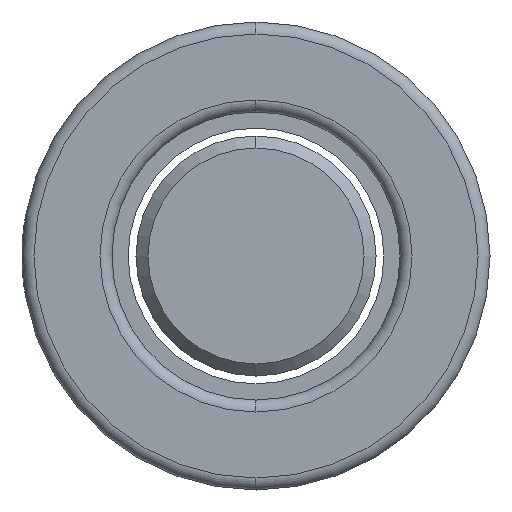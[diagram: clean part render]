
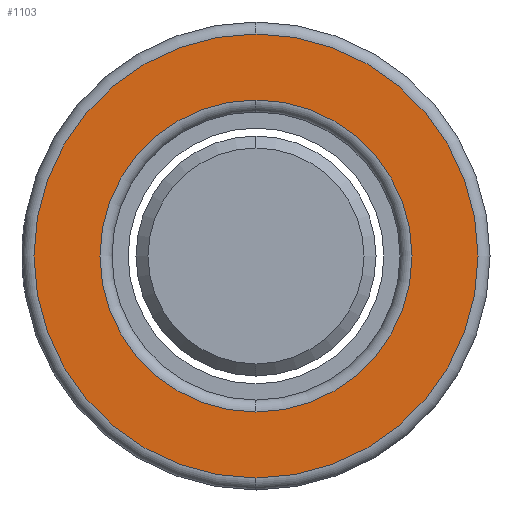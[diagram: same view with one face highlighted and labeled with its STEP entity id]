
A CAD part, left-side view. The second image highlights one B-rep face of the part: STEP entity #1103.
In plain terms, the highlighted planar face has unit normal (-1, 0, 0).
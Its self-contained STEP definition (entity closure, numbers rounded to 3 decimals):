
#7 = CARTESIAN_POINT ( 'NONE',  ( 0., 0., 0. ) ) ;
#63 = DIRECTION ( 'NONE',  ( 0., 0., -1. ) ) ;
#123 = FACE_OUTER_BOUND ( 'NONE', #822, .T. ) ;
#129 = VERTEX_POINT ( 'NONE', #1438 ) ;
#160 = CARTESIAN_POINT ( 'NONE',  ( 0., 0., 0. ) ) ;
#241 = DIRECTION ( 'NONE',  ( 0., 0., -1. ) ) ;
#251 = DIRECTION ( 'NONE',  ( 1., 0., 0. ) ) ;
#267 = PLANE ( 'NONE',  #2228 ) ;
#324 = EDGE_LOOP ( 'NONE', ( #1934, #1649 ) ) ;
#332 = DIRECTION ( 'NONE',  ( 0., 0., -1. ) ) ;
#346 = VERTEX_POINT ( 'NONE', #1180 ) ;
#528 = CARTESIAN_POINT ( 'NONE',  ( 0., 0., 0. ) ) ;
#550 = EDGE_CURVE ( 'NONE', #1295, #129, #840, .T. ) ;
#625 = ORIENTED_EDGE ( 'NONE', *, *, #2223, .T. ) ;
#668 = DIRECTION ( 'NONE',  ( -1., 0., 0. ) ) ;
#694 = DIRECTION ( 'NONE',  ( 0., 0., -1. ) ) ;
#822 = EDGE_LOOP ( 'NONE', ( #625, #886 ) ) ;
#840 = CIRCLE ( 'NONE', #2106, 6.5 ) ;
#868 = AXIS2_PLACEMENT_3D ( 'NONE', #1411, #251, #63 ) ;
#886 = ORIENTED_EDGE ( 'NONE', *, *, #2179, .T. ) ;
#908 = CIRCLE ( 'NONE', #868, 6.5 ) ;
#910 = AXIS2_PLACEMENT_3D ( 'NONE', #160, #1377, #1565 ) ;
#1032 = AXIS2_PLACEMENT_3D ( 'NONE', #528, #668, #694 ) ;
#1036 = CARTESIAN_POINT ( 'NONE',  ( 0., 0., -9.25 ) ) ;
#1047 = FACE_BOUND ( 'NONE', #324, .T. ) ;
#1078 = EDGE_CURVE ( 'NONE', #129, #1295, #908, .T. ) ;
#1103 = ADVANCED_FACE ( 'NONE', ( #123, #1047 ), #267, .F. ) ;
#1151 = CIRCLE ( 'NONE', #910, 9.25 ) ;
#1180 = CARTESIAN_POINT ( 'NONE',  ( 0., 0., 9.25 ) ) ;
#1225 = DIRECTION ( 'NONE',  ( 1., 0., 0. ) ) ;
#1295 = VERTEX_POINT ( 'NONE', #1855 ) ;
#1362 = CIRCLE ( 'NONE', #1032, 9.25 ) ;
#1377 = DIRECTION ( 'NONE',  ( -1., 0., 0. ) ) ;
#1411 = CARTESIAN_POINT ( 'NONE',  ( 0., 0., 0. ) ) ;
#1438 = CARTESIAN_POINT ( 'NONE',  ( 0., 0., 6.5 ) ) ;
#1565 = DIRECTION ( 'NONE',  ( 0., 0., -1. ) ) ;
#1649 = ORIENTED_EDGE ( 'NONE', *, *, #1078, .T. ) ;
#1824 = DIRECTION ( 'NONE',  ( 1., 0., 0. ) ) ;
#1855 = CARTESIAN_POINT ( 'NONE',  ( 0., 0., -6.5 ) ) ;
#1934 = ORIENTED_EDGE ( 'NONE', *, *, #550, .T. ) ;
#2106 = AXIS2_PLACEMENT_3D ( 'NONE', #7, #1225, #332 ) ;
#2137 = CARTESIAN_POINT ( 'NONE',  ( 0., 0., 0. ) ) ;
#2164 = VERTEX_POINT ( 'NONE', #1036 ) ;
#2179 = EDGE_CURVE ( 'NONE', #346, #2164, #1362, .T. ) ;
#2223 = EDGE_CURVE ( 'NONE', #2164, #346, #1151, .T. ) ;
#2228 = AXIS2_PLACEMENT_3D ( 'NONE', #2137, #1824, #241 ) ;
